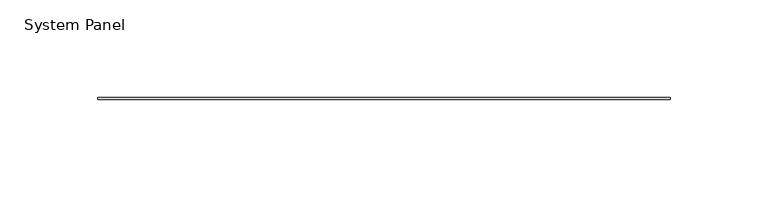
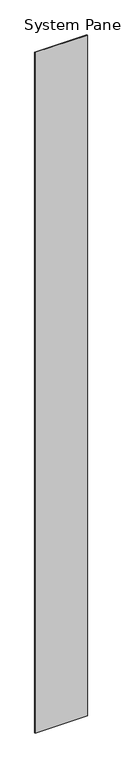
"""IFC4 building model written with IfcOpenShell, lengths in millimetres: plate geometry, System Panel : Stratco_Hiland_Interlock_Panel."""

from ifc_helpers import new_model, si_unit, origin, origin_with_axes, place, context, project, spatial, polyline, outline, extrude, source, transform, mapped, element, save


def system_panel_607e3a8e(model_context):
    return source(origin(), model_context, "Body", "SweptSolid", [
        extrude(outline(polyline([(145.9999998, 24.0), (-145.9999998, 24.0), (-145.9999998, 25.0), (145.9999998, 25.0), (145.9999998, 24.0)])), origin_with_axes(), (0.0, 0.0, 1.0), 4000.0),
    ])


if __name__ == "__main__":
    model = new_model("IFC4")
    model_context = context("Model", 3, world=origin())
    ifc_project = project(units=[si_unit("LENGTHUNIT", "METRE", prefix="MILLI")], contexts=[model_context])
    site = spatial("IfcSite", under=ifc_project)
    building = spatial("IfcBuilding", under=site)
    placement = place(None, origin())
    system_panel_shape = system_panel_607e3a8e(model_context)
    element("IfcPlate", 1, ObjectType="System Panel : Stratco_Hiland_Interlock_Panel", at=placement, inside=building, context=model_context, shape_type="MappedRepresentation", body=[
        mapped(system_panel_shape, transform((0.0, 0.0, 0.0), x_axis=(1.0, 0.0, 0.0), y_axis=(0.0, 1.0, 0.0), z_axis=(0.0, 0.0, 1.0))),
    ])
    save(model, "model.ifc")
